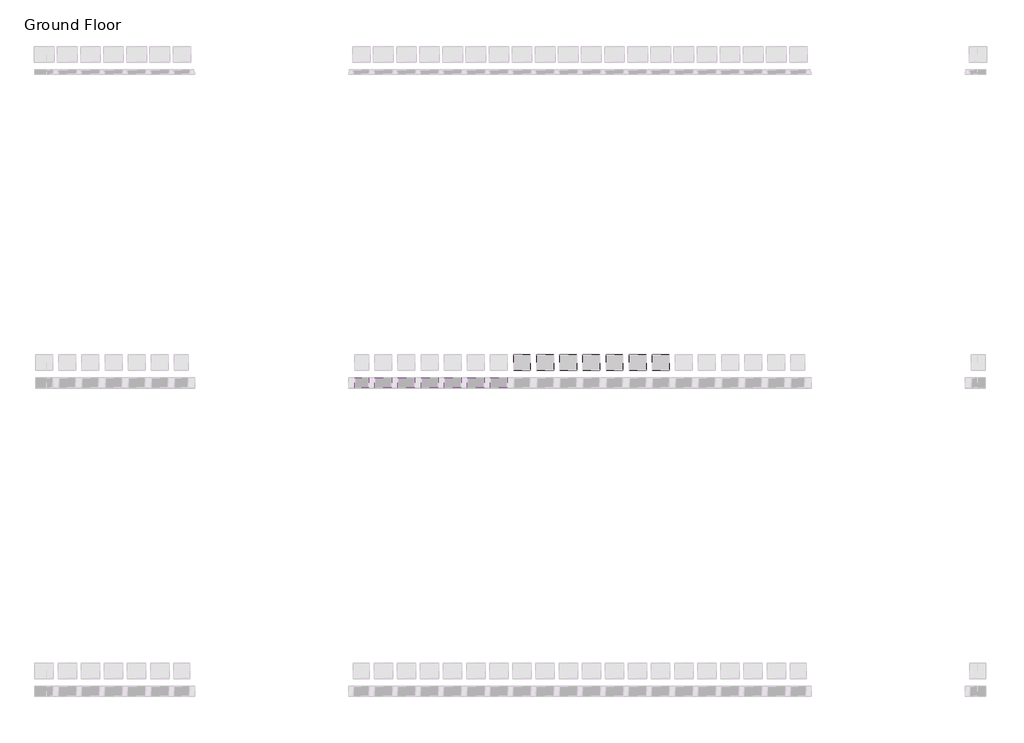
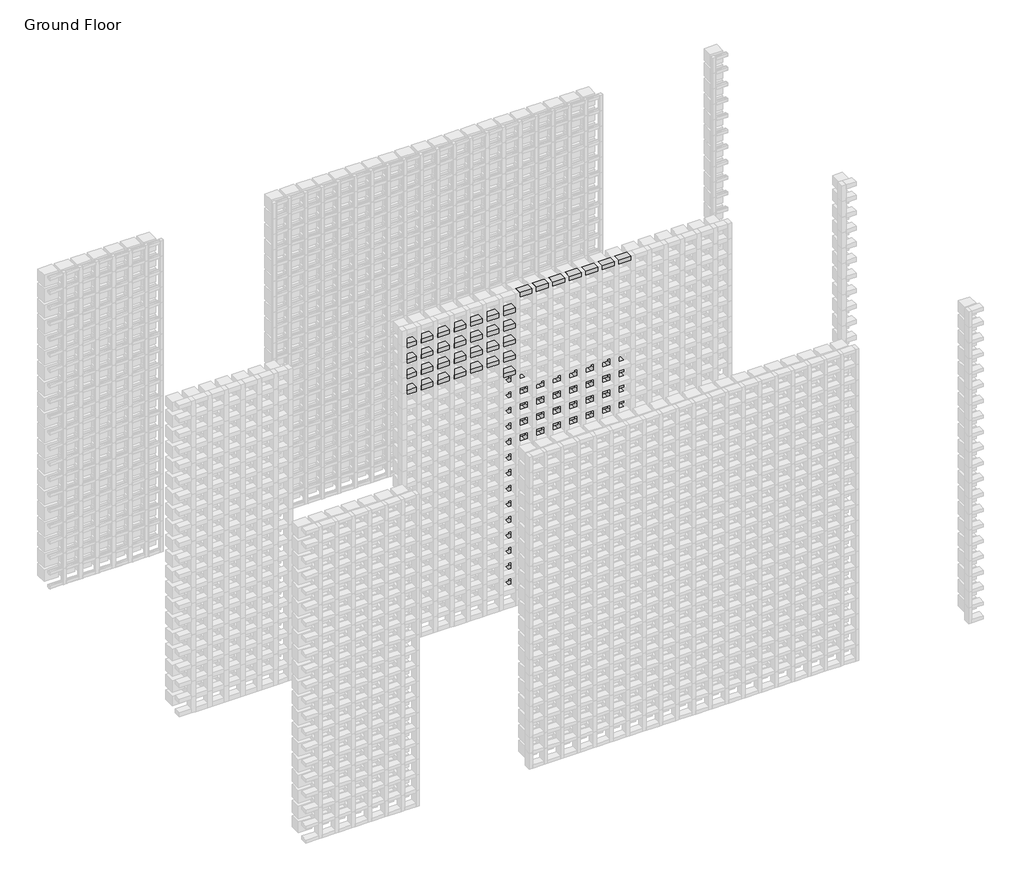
# One storey, part 97 of 350: 92 plates, 48 members.
"""IFC4 building model written with IfcOpenShell, lengths in millimetres."""

from ifc_helpers import new_model, si_unit, origin, place, context, project, spatial, transform, mapped, element, save
from components import rectangular_mullion_d93f5598, rectangular_mullion_655930e9, rectangular_mullion_581565bb, rectangular_mullion_d5b82d3d, rectangular_mullion_0b6a8654, empty_system_panel_empty_3b500fad, empty_system_panel_empty_1faefc6a

model = new_model("IFC4")

# Units and contexts
model_context = context("Model", 3, world=origin())
ifc_project = project(units=[si_unit("LENGTHUNIT", "METRE", prefix="MILLI")], contexts=[model_context])

# Site, building, storey
site = spatial("IfcSite", under=ifc_project)
building = spatial("IfcBuilding", under=site)
storey = spatial("IfcBuildingStorey", under=building, Name="Ground Floor", Elevation=0.0)

# Members
placement = place(None, origin())
rectangular_mullion_shape = rectangular_mullion_d93f5598(model_context)
element("IfcMember", 1, ObjectType="Rectangular Mullion : Batten_Timber_Modinex_Austratus_Grid_Fascia_40x65_Blackbutt", at=placement, inside=storey, context=model_context, shape_type="MappedRepresentation", body=[
    mapped(rectangular_mullion_shape, transform((6946.4361642, 40968.2978302, 2250.0), x_axis=(0.0, 0.0, 1.0), y_axis=(0.0, -1.0, 0.0), z_axis=(1.0, 0.0, 0.0))),
])
element("IfcMember", 2, ObjectType="Rectangular Mullion : Batten_Timber_Modinex_Austratus_Grid_Fascia_40x65_Blackbutt", at=placement, inside=storey, context=model_context, shape_type="MappedRepresentation", body=[
    mapped(rectangular_mullion_shape, transform((6196.4361642, 40968.2978302, 2400.0), x_axis=(0.0, 0.0, 1.0), y_axis=(0.0, -1.0, 0.0), z_axis=(1.0, 0.0, 0.0))),
])
element("IfcMember", 3, ObjectType="Rectangular Mullion : Batten_Timber_Modinex_Austratus_Grid_Fascia_40x65_Blackbutt", at=placement, inside=storey, context=model_context, shape_type="MappedRepresentation", body=[
    mapped(rectangular_mullion_shape, transform((6346.4361642, 40968.2978302, 2400.0), x_axis=(0.0, 0.0, 1.0), y_axis=(0.0, -1.0, 0.0), z_axis=(1.0, 0.0, 0.0))),
])
element("IfcMember", 4, ObjectType="Rectangular Mullion : Batten_Timber_Modinex_Austratus_Grid_Fascia_40x65_Blackbutt", at=placement, inside=storey, context=model_context, shape_type="MappedRepresentation", body=[
    mapped(rectangular_mullion_shape, transform((6496.4361642, 40968.2978302, 2400.0), x_axis=(0.0, 0.0, 1.0), y_axis=(0.0, -1.0, 0.0), z_axis=(1.0, 0.0, 0.0))),
])
element("IfcMember", 5, ObjectType="Rectangular Mullion : Batten_Timber_Modinex_Austratus_Grid_Fascia_40x65_Blackbutt", at=placement, inside=storey, context=model_context, shape_type="MappedRepresentation", body=[
    mapped(rectangular_mullion_shape, transform((6646.4361642, 40968.2978302, 2400.0), x_axis=(0.0, 0.0, 1.0), y_axis=(0.0, -1.0, 0.0), z_axis=(1.0, 0.0, 0.0))),
])
element("IfcMember", 6, ObjectType="Rectangular Mullion : Batten_Timber_Modinex_Austratus_Grid_Fascia_40x65_Blackbutt", at=placement, inside=storey, context=model_context, shape_type="MappedRepresentation", body=[
    mapped(rectangular_mullion_shape, transform((6796.4361642, 40968.2978302, 2400.0), x_axis=(0.0, 0.0, 1.0), y_axis=(0.0, -1.0, 0.0), z_axis=(1.0, 0.0, 0.0))),
])
element("IfcMember", 7, ObjectType="Rectangular Mullion : Batten_Timber_Modinex_Austratus_Grid_Fascia_40x65_Blackbutt", at=placement, inside=storey, context=model_context, shape_type="MappedRepresentation", body=[
    mapped(rectangular_mullion_shape, transform((6946.4361642, 40968.2978302, 2400.0), x_axis=(0.0, 0.0, 1.0), y_axis=(0.0, -1.0, 0.0), z_axis=(1.0, 0.0, 0.0))),
])
element("IfcMember", 8, ObjectType="Rectangular Mullion : Batten_Timber_Modinex_Austratus_Grid_Fascia_40x65_Blackbutt", at=placement, inside=storey, context=model_context, shape_type="MappedRepresentation", body=[
    mapped(rectangular_mullion_shape, transform((6196.4361642, 40968.2978302, 2550.0), x_axis=(0.0, 0.0, 1.0), y_axis=(0.0, -1.0, 0.0), z_axis=(1.0, 0.0, 0.0))),
])
element("IfcMember", 9, ObjectType="Rectangular Mullion : Batten_Timber_Modinex_Austratus_Grid_Fascia_40x65_Blackbutt", at=placement, inside=storey, context=model_context, shape_type="MappedRepresentation", body=[
    mapped(rectangular_mullion_shape, transform((6346.4361642, 40968.2978302, 2550.0), x_axis=(0.0, 0.0, 1.0), y_axis=(0.0, -1.0, 0.0), z_axis=(1.0, 0.0, 0.0))),
])
element("IfcMember", 10, ObjectType="Rectangular Mullion : Batten_Timber_Modinex_Austratus_Grid_Fascia_40x65_Blackbutt", at=placement, inside=storey, context=model_context, shape_type="MappedRepresentation", body=[
    mapped(rectangular_mullion_shape, transform((6496.4361642, 40968.2978302, 2550.0), x_axis=(0.0, 0.0, 1.0), y_axis=(0.0, -1.0, 0.0), z_axis=(1.0, 0.0, 0.0))),
])
element("IfcMember", 11, ObjectType="Rectangular Mullion : Batten_Timber_Modinex_Austratus_Grid_Fascia_40x65_Blackbutt", at=placement, inside=storey, context=model_context, shape_type="MappedRepresentation", body=[
    mapped(rectangular_mullion_shape, transform((6646.4361642, 40968.2978302, 2550.0), x_axis=(0.0, 0.0, 1.0), y_axis=(0.0, -1.0, 0.0), z_axis=(1.0, 0.0, 0.0))),
])
element("IfcMember", 12, ObjectType="Rectangular Mullion : Batten_Timber_Modinex_Austratus_Grid_Fascia_40x65_Blackbutt", at=placement, inside=storey, context=model_context, shape_type="MappedRepresentation", body=[
    mapped(rectangular_mullion_shape, transform((6796.4361642, 40968.2978302, 2550.0), x_axis=(0.0, 0.0, 1.0), y_axis=(0.0, -1.0, 0.0), z_axis=(1.0, 0.0, 0.0))),
])
element("IfcMember", 13, ObjectType="Rectangular Mullion : Batten_Timber_Modinex_Austratus_Grid_Fascia_40x65_Blackbutt", at=placement, inside=storey, context=model_context, shape_type="MappedRepresentation", body=[
    mapped(rectangular_mullion_shape, transform((6946.4361642, 40968.2978302, 2550.0), x_axis=(0.0, 0.0, 1.0), y_axis=(0.0, -1.0, 0.0), z_axis=(1.0, 0.0, 0.0))),
])
element("IfcMember", 14, ObjectType="Rectangular Mullion : Batten_Timber_Modinex_Austratus_Grid_Fascia_40x65_Blackbutt", at=placement, inside=storey, context=model_context, shape_type="MappedRepresentation", body=[
    mapped(rectangular_mullion_shape, transform((6196.4361642, 40968.2978302, 2700.0), x_axis=(0.0, 0.0, 1.0), y_axis=(0.0, -1.0, 0.0), z_axis=(1.0, 0.0, 0.0))),
])
element("IfcMember", 15, ObjectType="Rectangular Mullion : Batten_Timber_Modinex_Austratus_Grid_Fascia_40x65_Blackbutt", at=placement, inside=storey, context=model_context, shape_type="MappedRepresentation", body=[
    mapped(rectangular_mullion_shape, transform((6346.4361642, 40968.2978302, 2700.0), x_axis=(0.0, 0.0, 1.0), y_axis=(0.0, -1.0, 0.0), z_axis=(1.0, 0.0, 0.0))),
])
element("IfcMember", 16, ObjectType="Rectangular Mullion : Batten_Timber_Modinex_Austratus_Grid_Fascia_40x65_Blackbutt", at=placement, inside=storey, context=model_context, shape_type="MappedRepresentation", body=[
    mapped(rectangular_mullion_shape, transform((6496.4361642, 40968.2978302, 2700.0), x_axis=(0.0, 0.0, 1.0), y_axis=(0.0, -1.0, 0.0), z_axis=(1.0, 0.0, 0.0))),
])
element("IfcMember", 17, ObjectType="Rectangular Mullion : Batten_Timber_Modinex_Austratus_Grid_Fascia_40x65_Blackbutt", at=placement, inside=storey, context=model_context, shape_type="MappedRepresentation", body=[
    mapped(rectangular_mullion_shape, transform((6646.4361642, 40968.2978302, 2700.0), x_axis=(0.0, 0.0, 1.0), y_axis=(0.0, -1.0, 0.0), z_axis=(1.0, 0.0, 0.0))),
])
element("IfcMember", 18, ObjectType="Rectangular Mullion : Batten_Timber_Modinex_Austratus_Grid_Fascia_40x65_Blackbutt", at=placement, inside=storey, context=model_context, shape_type="MappedRepresentation", body=[
    mapped(rectangular_mullion_shape, transform((6796.4361642, 40968.2978302, 2700.0), x_axis=(0.0, 0.0, 1.0), y_axis=(0.0, -1.0, 0.0), z_axis=(1.0, 0.0, 0.0))),
])
element("IfcMember", 19, ObjectType="Rectangular Mullion : Batten_Timber_Modinex_Austratus_Grid_Fascia_40x65_Blackbutt", at=placement, inside=storey, context=model_context, shape_type="MappedRepresentation", body=[
    mapped(rectangular_mullion_shape, transform((6946.4361642, 40968.2978302, 2700.0), x_axis=(0.0, 0.0, 1.0), y_axis=(0.0, -1.0, 0.0), z_axis=(1.0, 0.0, 0.0))),
])
element("IfcMember", 20, ObjectType="Rectangular Mullion : Batten_Timber_Modinex_Austratus_Grid_Fascia_40x65_Blackbutt", at=placement, inside=storey, context=model_context, shape_type="MappedRepresentation", body=[
    mapped(rectangular_mullion_shape, transform((6196.4361642, 40968.2978302, 2850.0), x_axis=(0.0, 0.0, 1.0), y_axis=(0.0, -1.0, 0.0), z_axis=(1.0, 0.0, 0.0))),
])
element("IfcMember", 21, ObjectType="Rectangular Mullion : Batten_Timber_Modinex_Austratus_Grid_Fascia_40x65_Blackbutt", at=placement, inside=storey, context=model_context, shape_type="MappedRepresentation", body=[
    mapped(rectangular_mullion_shape, transform((6346.4361642, 40968.2978302, 2850.0), x_axis=(0.0, 0.0, 1.0), y_axis=(0.0, -1.0, 0.0), z_axis=(1.0, 0.0, 0.0))),
])
element("IfcMember", 22, ObjectType="Rectangular Mullion : Batten_Timber_Modinex_Austratus_Grid_Fascia_40x65_Blackbutt", at=placement, inside=storey, context=model_context, shape_type="MappedRepresentation", body=[
    mapped(rectangular_mullion_shape, transform((6496.4361642, 40968.2978302, 2850.0), x_axis=(0.0, 0.0, 1.0), y_axis=(0.0, -1.0, 0.0), z_axis=(1.0, 0.0, 0.0))),
])
element("IfcMember", 23, ObjectType="Rectangular Mullion : Batten_Timber_Modinex_Austratus_Grid_Fascia_40x65_Blackbutt", at=placement, inside=storey, context=model_context, shape_type="MappedRepresentation", body=[
    mapped(rectangular_mullion_shape, transform((6646.4361642, 40968.2978302, 2850.0), x_axis=(0.0, 0.0, 1.0), y_axis=(0.0, -1.0, 0.0), z_axis=(1.0, 0.0, 0.0))),
])
element("IfcMember", 24, ObjectType="Rectangular Mullion : Batten_Timber_Modinex_Austratus_Grid_Fascia_40x65_Blackbutt", at=placement, inside=storey, context=model_context, shape_type="MappedRepresentation", body=[
    mapped(rectangular_mullion_shape, transform((6796.4361642, 40968.2978302, 2850.0), x_axis=(0.0, 0.0, 1.0), y_axis=(0.0, -1.0, 0.0), z_axis=(1.0, 0.0, 0.0))),
])
element("IfcMember", 25, ObjectType="Rectangular Mullion : Batten_Timber_Modinex_Austratus_Grid_Fascia_40x65_Blackbutt", at=placement, inside=storey, context=model_context, shape_type="MappedRepresentation", body=[
    mapped(rectangular_mullion_shape, transform((6946.4361642, 40968.2978302, 2850.0), x_axis=(0.0, 0.0, 1.0), y_axis=(0.0, -1.0, 0.0), z_axis=(1.0, 0.0, 0.0))),
])
rectangular_mullion_2_shape = rectangular_mullion_655930e9(model_context)
element("IfcMember", 26, ObjectType="Rectangular Mullion : Batten_Timber_Modinex_Austratus_Grid_Fascia_40x65_Blackbutt", at=placement, inside=storey, context=model_context, shape_type="MappedRepresentation", body=[
    mapped(rectangular_mullion_2_shape, transform((7116.4361642, 40968.2978302, 0.0), x_axis=(1.0, 0.0, 0.0), y_axis=(0.0, -1.0, 0.0), z_axis=(0.0, 0.0, -1.0))),
])
element("IfcMember", 27, ObjectType="Rectangular Mullion : Batten_Timber_Modinex_Austratus_Grid_Fascia_40x65_Blackbutt", at=placement, inside=storey, context=model_context, shape_type="MappedRepresentation", body=[
    mapped(rectangular_mullion_2_shape, transform((7266.4361642, 40968.2978302, 0.0), x_axis=(1.0, 0.0, 0.0), y_axis=(0.0, -1.0, 0.0), z_axis=(0.0, 0.0, -1.0))),
])
element("IfcMember", 28, ObjectType="Rectangular Mullion : Batten_Timber_Modinex_Austratus_Grid_Fascia_40x65_Blackbutt", at=placement, inside=storey, context=model_context, shape_type="MappedRepresentation", body=[
    mapped(rectangular_mullion_2_shape, transform((7416.4361642, 40968.2978302, 0.0), x_axis=(1.0, 0.0, 0.0), y_axis=(0.0, -1.0, 0.0), z_axis=(0.0, 0.0, -1.0))),
])
element("IfcMember", 29, ObjectType="Rectangular Mullion : Batten_Timber_Modinex_Austratus_Grid_Fascia_40x65_Blackbutt", at=placement, inside=storey, context=model_context, shape_type="MappedRepresentation", body=[
    mapped(rectangular_mullion_2_shape, transform((7566.4361642, 40968.2978302, 0.0), x_axis=(1.0, 0.0, 0.0), y_axis=(0.0, -1.0, 0.0), z_axis=(0.0, 0.0, -1.0))),
])
element("IfcMember", 30, ObjectType="Rectangular Mullion : Batten_Timber_Modinex_Austratus_Grid_Fascia_40x65_Blackbutt", at=placement, inside=storey, context=model_context, shape_type="MappedRepresentation", body=[
    mapped(rectangular_mullion_2_shape, transform((7716.4361642, 40968.2978302, 0.0), x_axis=(1.0, 0.0, 0.0), y_axis=(0.0, -1.0, 0.0), z_axis=(0.0, 0.0, -1.0))),
])
element("IfcMember", 31, ObjectType="Rectangular Mullion : Batten_Timber_Modinex_Austratus_Grid_Fascia_40x65_Blackbutt", at=placement, inside=storey, context=model_context, shape_type="MappedRepresentation", body=[
    mapped(rectangular_mullion_2_shape, transform((7866.4361642, 40968.2978302, 0.0), x_axis=(1.0, 0.0, 0.0), y_axis=(0.0, -1.0, 0.0), z_axis=(0.0, 0.0, -1.0))),
])
rectangular_mullion_3_shape = rectangular_mullion_581565bb(model_context)
element("IfcMember", 32, ObjectType="Rectangular Mullion : Batten_Timber_Modinex_Austratus_Grid_Fascia_40x65_Blackbutt", at=placement, inside=storey, context=model_context, shape_type="MappedRepresentation", body=[
    mapped(rectangular_mullion_3_shape, transform((7096.4361642, 40968.2978302, 3000.0), x_axis=(0.0, 0.0, 1.0), y_axis=(0.0, -1.0, 0.0), z_axis=(1.0, 0.0, 0.0))),
])
element("IfcMember", 33, ObjectType="Rectangular Mullion : Batten_Timber_Modinex_Austratus_Grid_Fascia_40x65_Blackbutt", at=placement, inside=storey, context=model_context, shape_type="MappedRepresentation", body=[
    mapped(rectangular_mullion_3_shape, transform((7246.4361642, 40968.2978302, 3000.0), x_axis=(0.0, 0.0, 1.0), y_axis=(0.0, -1.0, 0.0), z_axis=(1.0, 0.0, 0.0))),
])
element("IfcMember", 34, ObjectType="Rectangular Mullion : Batten_Timber_Modinex_Austratus_Grid_Fascia_40x65_Blackbutt", at=placement, inside=storey, context=model_context, shape_type="MappedRepresentation", body=[
    mapped(rectangular_mullion_3_shape, transform((7396.4361642, 40968.2978302, 3000.0), x_axis=(0.0, 0.0, 1.0), y_axis=(0.0, -1.0, 0.0), z_axis=(1.0, 0.0, 0.0))),
])
element("IfcMember", 35, ObjectType="Rectangular Mullion : Batten_Timber_Modinex_Austratus_Grid_Fascia_40x65_Blackbutt", at=placement, inside=storey, context=model_context, shape_type="MappedRepresentation", body=[
    mapped(rectangular_mullion_3_shape, transform((7546.4361642, 40968.2978302, 3000.0), x_axis=(0.0, 0.0, 1.0), y_axis=(0.0, -1.0, 0.0), z_axis=(1.0, 0.0, 0.0))),
])
element("IfcMember", 36, ObjectType="Rectangular Mullion : Batten_Timber_Modinex_Austratus_Grid_Fascia_40x65_Blackbutt", at=placement, inside=storey, context=model_context, shape_type="MappedRepresentation", body=[
    mapped(rectangular_mullion_3_shape, transform((7696.4361642, 40968.2978302, 3000.0), x_axis=(0.0, 0.0, 1.0), y_axis=(0.0, -1.0, 0.0), z_axis=(1.0, 0.0, 0.0))),
])
element("IfcMember", 37, ObjectType="Rectangular Mullion : Batten_Timber_Modinex_Austratus_Grid_Fascia_40x65_Blackbutt", at=placement, inside=storey, context=model_context, shape_type="MappedRepresentation", body=[
    mapped(rectangular_mullion_3_shape, transform((7846.4361642, 40968.2978302, 3000.0), x_axis=(0.0, 0.0, 1.0), y_axis=(0.0, -1.0, 0.0), z_axis=(1.0, 0.0, 0.0))),
])
element("IfcMember", 38, ObjectType="Rectangular Mullion : Batten_Timber_Modinex_Austratus_Grid_Fascia_40x65_Blackbutt", at=placement, inside=storey, context=model_context, shape_type="MappedRepresentation", body=[
    mapped(rectangular_mullion_3_shape, transform((7996.4361642, 40968.2978302, 3000.0), x_axis=(0.0, 0.0, 1.0), y_axis=(0.0, -1.0, 0.0), z_axis=(1.0, 0.0, 0.0))),
])
rectangular_mullion_4_shape = rectangular_mullion_d5b82d3d(model_context)
element("IfcMember", 39, ObjectType="Rectangular Mullion : Batten_Timber_Modinex_Austratus_Grid_Fascia_40x65_Blackbutt", at=placement, inside=storey, context=model_context, shape_type="MappedRepresentation", body=[
    mapped(rectangular_mullion_4_shape, transform((7136.4361642, 40968.2978302, 0.0), x_axis=(0.0, 0.0, -1.0), y_axis=(0.0, -1.0, 0.0), z_axis=(-1.0, 0.0, 0.0))),
])
element("IfcMember", 40, ObjectType="Rectangular Mullion : Batten_Timber_Modinex_Austratus_Grid_Fascia_40x65_Blackbutt", at=placement, inside=storey, context=model_context, shape_type="MappedRepresentation", body=[
    mapped(rectangular_mullion_4_shape, transform((7286.4361642, 40968.2978302, 0.0), x_axis=(0.0, 0.0, -1.0), y_axis=(0.0, -1.0, 0.0), z_axis=(-1.0, 0.0, 0.0))),
])
element("IfcMember", 41, ObjectType="Rectangular Mullion : Batten_Timber_Modinex_Austratus_Grid_Fascia_40x65_Blackbutt", at=placement, inside=storey, context=model_context, shape_type="MappedRepresentation", body=[
    mapped(rectangular_mullion_4_shape, transform((7436.4361642, 40968.2978302, 0.0), x_axis=(0.0, 0.0, -1.0), y_axis=(0.0, -1.0, 0.0), z_axis=(-1.0, 0.0, 0.0))),
])
element("IfcMember", 42, ObjectType="Rectangular Mullion : Batten_Timber_Modinex_Austratus_Grid_Fascia_40x65_Blackbutt", at=placement, inside=storey, context=model_context, shape_type="MappedRepresentation", body=[
    mapped(rectangular_mullion_4_shape, transform((7586.4361642, 40968.2978302, 0.0), x_axis=(0.0, 0.0, -1.0), y_axis=(0.0, -1.0, 0.0), z_axis=(-1.0, 0.0, 0.0))),
])
element("IfcMember", 43, ObjectType="Rectangular Mullion : Batten_Timber_Modinex_Austratus_Grid_Fascia_40x65_Blackbutt", at=placement, inside=storey, context=model_context, shape_type="MappedRepresentation", body=[
    mapped(rectangular_mullion_4_shape, transform((7736.4361642, 40968.2978302, 0.0), x_axis=(0.0, 0.0, -1.0), y_axis=(0.0, -1.0, 0.0), z_axis=(-1.0, 0.0, 0.0))),
])
element("IfcMember", 44, ObjectType="Rectangular Mullion : Batten_Timber_Modinex_Austratus_Grid_Fascia_40x65_Blackbutt", at=placement, inside=storey, context=model_context, shape_type="MappedRepresentation", body=[
    mapped(rectangular_mullion_4_shape, transform((7886.4361642, 40968.2978302, 0.0), x_axis=(0.0, 0.0, -1.0), y_axis=(0.0, -1.0, 0.0), z_axis=(-1.0, 0.0, 0.0))),
])
rectangular_mullion_5_shape = rectangular_mullion_0b6a8654(model_context)
element("IfcMember", 45, ObjectType="Rectangular Mullion : Batten_Timber_Modinex_Austratus_Grid_Fascia_40x65_Blackbutt", at=placement, inside=storey, context=model_context, shape_type="MappedRepresentation", body=[
    mapped(rectangular_mullion_5_shape, transform((6046.4361642, 40968.2978302, 2400.0), x_axis=(0.0, 0.0, 1.0), y_axis=(0.0, -1.0, 0.0), z_axis=(1.0, 0.0, 0.0))),
])
element("IfcMember", 46, ObjectType="Rectangular Mullion : Batten_Timber_Modinex_Austratus_Grid_Fascia_40x65_Blackbutt", at=placement, inside=storey, context=model_context, shape_type="MappedRepresentation", body=[
    mapped(rectangular_mullion_5_shape, transform((6046.4361642, 40968.2978302, 2550.0), x_axis=(0.0, 0.0, 1.0), y_axis=(0.0, -1.0, 0.0), z_axis=(1.0, 0.0, 0.0))),
])
element("IfcMember", 47, ObjectType="Rectangular Mullion : Batten_Timber_Modinex_Austratus_Grid_Fascia_40x65_Blackbutt", at=placement, inside=storey, context=model_context, shape_type="MappedRepresentation", body=[
    mapped(rectangular_mullion_5_shape, transform((6046.4361642, 40968.2978302, 2700.0), x_axis=(0.0, 0.0, 1.0), y_axis=(0.0, -1.0, 0.0), z_axis=(1.0, 0.0, 0.0))),
])
element("IfcMember", 48, ObjectType="Rectangular Mullion : Batten_Timber_Modinex_Austratus_Grid_Fascia_40x65_Blackbutt", at=placement, inside=storey, context=model_context, shape_type="MappedRepresentation", body=[
    mapped(rectangular_mullion_5_shape, transform((6046.4361642, 40968.2978302, 2850.0), x_axis=(0.0, 0.0, 1.0), y_axis=(0.0, -1.0, 0.0), z_axis=(1.0, 0.0, 0.0))),
])

# Plates
empty_system_panel_empty_shape = empty_system_panel_empty_3b500fad(model_context)
element("IfcPlate", 49, ObjectType="Empty System Panel : Empty", at=placement, inside=storey, context=model_context, shape_type="MappedRepresentation", body=[
    mapped(empty_system_panel_empty_shape, transform((7041.4361642, 40968.2978302, 170.0), x_axis=(1.0, 0.0, 0.0), y_axis=(0.0, 1.0, 0.0), z_axis=(0.0, 0.0, 1.0))),
])
element("IfcPlate", 50, ObjectType="Empty System Panel : Empty", at=placement, inside=storey, context=model_context, shape_type="MappedRepresentation", body=[
    mapped(empty_system_panel_empty_shape, transform((7191.4361642, 40968.2978302, 170.0), x_axis=(1.0, 0.0, 0.0), y_axis=(0.0, 1.0, 0.0), z_axis=(0.0, 0.0, 1.0))),
])
element("IfcPlate", 51, ObjectType="Empty System Panel : Empty", at=placement, inside=storey, context=model_context, shape_type="MappedRepresentation", body=[
    mapped(empty_system_panel_empty_shape, transform((7341.4361642, 40968.2978302, 170.0), x_axis=(1.0, 0.0, 0.0), y_axis=(0.0, 1.0, 0.0), z_axis=(0.0, 0.0, 1.0))),
])
element("IfcPlate", 52, ObjectType="Empty System Panel : Empty", at=placement, inside=storey, context=model_context, shape_type="MappedRepresentation", body=[
    mapped(empty_system_panel_empty_shape, transform((7491.4361642, 40968.2978302, 170.0), x_axis=(1.0, 0.0, 0.0), y_axis=(0.0, 1.0, 0.0), z_axis=(0.0, 0.0, 1.0))),
])
element("IfcPlate", 53, ObjectType="Empty System Panel : Empty", at=placement, inside=storey, context=model_context, shape_type="MappedRepresentation", body=[
    mapped(empty_system_panel_empty_shape, transform((7641.4361642, 40968.2978302, 170.0), x_axis=(1.0, 0.0, 0.0), y_axis=(0.0, 1.0, 0.0), z_axis=(0.0, 0.0, 1.0))),
])
element("IfcPlate", 54, ObjectType="Empty System Panel : Empty", at=placement, inside=storey, context=model_context, shape_type="MappedRepresentation", body=[
    mapped(empty_system_panel_empty_shape, transform((7791.4361642, 40968.2978302, 170.0), x_axis=(1.0, 0.0, 0.0), y_axis=(0.0, 1.0, 0.0), z_axis=(0.0, 0.0, 1.0))),
])
element("IfcPlate", 55, ObjectType="Empty System Panel : Empty", at=placement, inside=storey, context=model_context, shape_type="MappedRepresentation", body=[
    mapped(empty_system_panel_empty_shape, transform((7941.4361642, 40968.2978302, 170.0), x_axis=(1.0, 0.0, 0.0), y_axis=(0.0, 1.0, 0.0), z_axis=(0.0, 0.0, 1.0))),
])
element("IfcPlate", 56, ObjectType="Empty System Panel : Empty", at=placement, inside=storey, context=model_context, shape_type="MappedRepresentation", body=[
    mapped(empty_system_panel_empty_shape, transform((7041.4361642, 40968.2978302, 320.0), x_axis=(1.0, 0.0, 0.0), y_axis=(0.0, 1.0, 0.0), z_axis=(0.0, 0.0, 1.0))),
])
element("IfcPlate", 57, ObjectType="Empty System Panel : Empty", at=placement, inside=storey, context=model_context, shape_type="MappedRepresentation", body=[
    mapped(empty_system_panel_empty_shape, transform((7191.4361642, 40968.2978302, 320.0), x_axis=(1.0, 0.0, 0.0), y_axis=(0.0, 1.0, 0.0), z_axis=(0.0, 0.0, 1.0))),
])
element("IfcPlate", 58, ObjectType="Empty System Panel : Empty", at=placement, inside=storey, context=model_context, shape_type="MappedRepresentation", body=[
    mapped(empty_system_panel_empty_shape, transform((7341.4361642, 40968.2978302, 320.0), x_axis=(1.0, 0.0, 0.0), y_axis=(0.0, 1.0, 0.0), z_axis=(0.0, 0.0, 1.0))),
])
element("IfcPlate", 59, ObjectType="Empty System Panel : Empty", at=placement, inside=storey, context=model_context, shape_type="MappedRepresentation", body=[
    mapped(empty_system_panel_empty_shape, transform((7491.4361642, 40968.2978302, 320.0), x_axis=(1.0, 0.0, 0.0), y_axis=(0.0, 1.0, 0.0), z_axis=(0.0, 0.0, 1.0))),
])
element("IfcPlate", 60, ObjectType="Empty System Panel : Empty", at=placement, inside=storey, context=model_context, shape_type="MappedRepresentation", body=[
    mapped(empty_system_panel_empty_shape, transform((7641.4361642, 40968.2978302, 320.0), x_axis=(1.0, 0.0, 0.0), y_axis=(0.0, 1.0, 0.0), z_axis=(0.0, 0.0, 1.0))),
])
element("IfcPlate", 61, ObjectType="Empty System Panel : Empty", at=placement, inside=storey, context=model_context, shape_type="MappedRepresentation", body=[
    mapped(empty_system_panel_empty_shape, transform((7791.4361642, 40968.2978302, 320.0), x_axis=(1.0, 0.0, 0.0), y_axis=(0.0, 1.0, 0.0), z_axis=(0.0, 0.0, 1.0))),
])
element("IfcPlate", 62, ObjectType="Empty System Panel : Empty", at=placement, inside=storey, context=model_context, shape_type="MappedRepresentation", body=[
    mapped(empty_system_panel_empty_shape, transform((7941.4361642, 40968.2978302, 320.0), x_axis=(1.0, 0.0, 0.0), y_axis=(0.0, 1.0, 0.0), z_axis=(0.0, 0.0, 1.0))),
])
element("IfcPlate", 63, ObjectType="Empty System Panel : Empty", at=placement, inside=storey, context=model_context, shape_type="MappedRepresentation", body=[
    mapped(empty_system_panel_empty_shape, transform((7041.4361642, 40968.2978302, 470.0), x_axis=(1.0, 0.0, 0.0), y_axis=(0.0, 1.0, 0.0), z_axis=(0.0, 0.0, 1.0))),
])
element("IfcPlate", 64, ObjectType="Empty System Panel : Empty", at=placement, inside=storey, context=model_context, shape_type="MappedRepresentation", body=[
    mapped(empty_system_panel_empty_shape, transform((7191.4361642, 40968.2978302, 470.0), x_axis=(1.0, 0.0, 0.0), y_axis=(0.0, 1.0, 0.0), z_axis=(0.0, 0.0, 1.0))),
])
element("IfcPlate", 65, ObjectType="Empty System Panel : Empty", at=placement, inside=storey, context=model_context, shape_type="MappedRepresentation", body=[
    mapped(empty_system_panel_empty_shape, transform((7341.4361642, 40968.2978302, 470.0), x_axis=(1.0, 0.0, 0.0), y_axis=(0.0, 1.0, 0.0), z_axis=(0.0, 0.0, 1.0))),
])
element("IfcPlate", 66, ObjectType="Empty System Panel : Empty", at=placement, inside=storey, context=model_context, shape_type="MappedRepresentation", body=[
    mapped(empty_system_panel_empty_shape, transform((7491.4361642, 40968.2978302, 470.0), x_axis=(1.0, 0.0, 0.0), y_axis=(0.0, 1.0, 0.0), z_axis=(0.0, 0.0, 1.0))),
])
element("IfcPlate", 67, ObjectType="Empty System Panel : Empty", at=placement, inside=storey, context=model_context, shape_type="MappedRepresentation", body=[
    mapped(empty_system_panel_empty_shape, transform((7641.4361642, 40968.2978302, 470.0), x_axis=(1.0, 0.0, 0.0), y_axis=(0.0, 1.0, 0.0), z_axis=(0.0, 0.0, 1.0))),
])
element("IfcPlate", 68, ObjectType="Empty System Panel : Empty", at=placement, inside=storey, context=model_context, shape_type="MappedRepresentation", body=[
    mapped(empty_system_panel_empty_shape, transform((7791.4361642, 40968.2978302, 470.0), x_axis=(1.0, 0.0, 0.0), y_axis=(0.0, 1.0, 0.0), z_axis=(0.0, 0.0, 1.0))),
])
element("IfcPlate", 69, ObjectType="Empty System Panel : Empty", at=placement, inside=storey, context=model_context, shape_type="MappedRepresentation", body=[
    mapped(empty_system_panel_empty_shape, transform((7941.4361642, 40968.2978302, 470.0), x_axis=(1.0, 0.0, 0.0), y_axis=(0.0, 1.0, 0.0), z_axis=(0.0, 0.0, 1.0))),
])
element("IfcPlate", 70, ObjectType="Empty System Panel : Empty", at=placement, inside=storey, context=model_context, shape_type="MappedRepresentation", body=[
    mapped(empty_system_panel_empty_shape, transform((7041.4361642, 40968.2978302, 620.0), x_axis=(1.0, 0.0, 0.0), y_axis=(0.0, 1.0, 0.0), z_axis=(0.0, 0.0, 1.0))),
])
element("IfcPlate", 71, ObjectType="Empty System Panel : Empty", at=placement, inside=storey, context=model_context, shape_type="MappedRepresentation", body=[
    mapped(empty_system_panel_empty_shape, transform((7191.4361642, 40968.2978302, 620.0), x_axis=(1.0, 0.0, 0.0), y_axis=(0.0, 1.0, 0.0), z_axis=(0.0, 0.0, 1.0))),
])
element("IfcPlate", 72, ObjectType="Empty System Panel : Empty", at=placement, inside=storey, context=model_context, shape_type="MappedRepresentation", body=[
    mapped(empty_system_panel_empty_shape, transform((7341.4361642, 40968.2978302, 620.0), x_axis=(1.0, 0.0, 0.0), y_axis=(0.0, 1.0, 0.0), z_axis=(0.0, 0.0, 1.0))),
])
element("IfcPlate", 73, ObjectType="Empty System Panel : Empty", at=placement, inside=storey, context=model_context, shape_type="MappedRepresentation", body=[
    mapped(empty_system_panel_empty_shape, transform((7491.4361642, 40968.2978302, 620.0), x_axis=(1.0, 0.0, 0.0), y_axis=(0.0, 1.0, 0.0), z_axis=(0.0, 0.0, 1.0))),
])
element("IfcPlate", 74, ObjectType="Empty System Panel : Empty", at=placement, inside=storey, context=model_context, shape_type="MappedRepresentation", body=[
    mapped(empty_system_panel_empty_shape, transform((7641.4361642, 40968.2978302, 620.0), x_axis=(1.0, 0.0, 0.0), y_axis=(0.0, 1.0, 0.0), z_axis=(0.0, 0.0, 1.0))),
])
element("IfcPlate", 75, ObjectType="Empty System Panel : Empty", at=placement, inside=storey, context=model_context, shape_type="MappedRepresentation", body=[
    mapped(empty_system_panel_empty_shape, transform((7791.4361642, 40968.2978302, 620.0), x_axis=(1.0, 0.0, 0.0), y_axis=(0.0, 1.0, 0.0), z_axis=(0.0, 0.0, 1.0))),
])
element("IfcPlate", 76, ObjectType="Empty System Panel : Empty", at=placement, inside=storey, context=model_context, shape_type="MappedRepresentation", body=[
    mapped(empty_system_panel_empty_shape, transform((7941.4361642, 40968.2978302, 620.0), x_axis=(1.0, 0.0, 0.0), y_axis=(0.0, 1.0, 0.0), z_axis=(0.0, 0.0, 1.0))),
])
element("IfcPlate", 77, ObjectType="Empty System Panel : Empty", at=placement, inside=storey, context=model_context, shape_type="MappedRepresentation", body=[
    mapped(empty_system_panel_empty_shape, transform((7041.4361642, 40968.2978302, 770.0), x_axis=(1.0, 0.0, 0.0), y_axis=(0.0, 1.0, 0.0), z_axis=(0.0, 0.0, 1.0))),
])
element("IfcPlate", 78, ObjectType="Empty System Panel : Empty", at=placement, inside=storey, context=model_context, shape_type="MappedRepresentation", body=[
    mapped(empty_system_panel_empty_shape, transform((7191.4361642, 40968.2978302, 770.0), x_axis=(1.0, 0.0, 0.0), y_axis=(0.0, 1.0, 0.0), z_axis=(0.0, 0.0, 1.0))),
])
element("IfcPlate", 79, ObjectType="Empty System Panel : Empty", at=placement, inside=storey, context=model_context, shape_type="MappedRepresentation", body=[
    mapped(empty_system_panel_empty_shape, transform((7341.4361642, 40968.2978302, 770.0), x_axis=(1.0, 0.0, 0.0), y_axis=(0.0, 1.0, 0.0), z_axis=(0.0, 0.0, 1.0))),
])
element("IfcPlate", 80, ObjectType="Empty System Panel : Empty", at=placement, inside=storey, context=model_context, shape_type="MappedRepresentation", body=[
    mapped(empty_system_panel_empty_shape, transform((7491.4361642, 40968.2978302, 770.0), x_axis=(1.0, 0.0, 0.0), y_axis=(0.0, 1.0, 0.0), z_axis=(0.0, 0.0, 1.0))),
])
element("IfcPlate", 81, ObjectType="Empty System Panel : Empty", at=placement, inside=storey, context=model_context, shape_type="MappedRepresentation", body=[
    mapped(empty_system_panel_empty_shape, transform((7641.4361642, 40968.2978302, 770.0), x_axis=(1.0, 0.0, 0.0), y_axis=(0.0, 1.0, 0.0), z_axis=(0.0, 0.0, 1.0))),
])
element("IfcPlate", 82, ObjectType="Empty System Panel : Empty", at=placement, inside=storey, context=model_context, shape_type="MappedRepresentation", body=[
    mapped(empty_system_panel_empty_shape, transform((7791.4361642, 40968.2978302, 770.0), x_axis=(1.0, 0.0, 0.0), y_axis=(0.0, 1.0, 0.0), z_axis=(0.0, 0.0, 1.0))),
])
element("IfcPlate", 83, ObjectType="Empty System Panel : Empty", at=placement, inside=storey, context=model_context, shape_type="MappedRepresentation", body=[
    mapped(empty_system_panel_empty_shape, transform((7941.4361642, 40968.2978302, 770.0), x_axis=(1.0, 0.0, 0.0), y_axis=(0.0, 1.0, 0.0), z_axis=(0.0, 0.0, 1.0))),
])
element("IfcPlate", 84, ObjectType="Empty System Panel : Empty", at=placement, inside=storey, context=model_context, shape_type="MappedRepresentation", body=[
    mapped(empty_system_panel_empty_shape, transform((7041.4361642, 40968.2978302, 920.0), x_axis=(1.0, 0.0, 0.0), y_axis=(0.0, 1.0, 0.0), z_axis=(0.0, 0.0, 1.0))),
])
element("IfcPlate", 85, ObjectType="Empty System Panel : Empty", at=placement, inside=storey, context=model_context, shape_type="MappedRepresentation", body=[
    mapped(empty_system_panel_empty_shape, transform((7191.4361642, 40968.2978302, 920.0), x_axis=(1.0, 0.0, 0.0), y_axis=(0.0, 1.0, 0.0), z_axis=(0.0, 0.0, 1.0))),
])
element("IfcPlate", 86, ObjectType="Empty System Panel : Empty", at=placement, inside=storey, context=model_context, shape_type="MappedRepresentation", body=[
    mapped(empty_system_panel_empty_shape, transform((7341.4361642, 40968.2978302, 920.0), x_axis=(1.0, 0.0, 0.0), y_axis=(0.0, 1.0, 0.0), z_axis=(0.0, 0.0, 1.0))),
])
element("IfcPlate", 87, ObjectType="Empty System Panel : Empty", at=placement, inside=storey, context=model_context, shape_type="MappedRepresentation", body=[
    mapped(empty_system_panel_empty_shape, transform((7491.4361642, 40968.2978302, 920.0), x_axis=(1.0, 0.0, 0.0), y_axis=(0.0, 1.0, 0.0), z_axis=(0.0, 0.0, 1.0))),
])
element("IfcPlate", 88, ObjectType="Empty System Panel : Empty", at=placement, inside=storey, context=model_context, shape_type="MappedRepresentation", body=[
    mapped(empty_system_panel_empty_shape, transform((7641.4361642, 40968.2978302, 920.0), x_axis=(1.0, 0.0, 0.0), y_axis=(0.0, 1.0, 0.0), z_axis=(0.0, 0.0, 1.0))),
])
element("IfcPlate", 89, ObjectType="Empty System Panel : Empty", at=placement, inside=storey, context=model_context, shape_type="MappedRepresentation", body=[
    mapped(empty_system_panel_empty_shape, transform((7791.4361642, 40968.2978302, 920.0), x_axis=(1.0, 0.0, 0.0), y_axis=(0.0, 1.0, 0.0), z_axis=(0.0, 0.0, 1.0))),
])
element("IfcPlate", 90, ObjectType="Empty System Panel : Empty", at=placement, inside=storey, context=model_context, shape_type="MappedRepresentation", body=[
    mapped(empty_system_panel_empty_shape, transform((7941.4361642, 40968.2978302, 920.0), x_axis=(1.0, 0.0, 0.0), y_axis=(0.0, 1.0, 0.0), z_axis=(0.0, 0.0, 1.0))),
])
element("IfcPlate", 91, ObjectType="Empty System Panel : Empty", at=placement, inside=storey, context=model_context, shape_type="MappedRepresentation", body=[
    mapped(empty_system_panel_empty_shape, transform((7041.4361642, 40968.2978302, 1070.0), x_axis=(1.0, 0.0, 0.0), y_axis=(0.0, 1.0, 0.0), z_axis=(0.0, 0.0, 1.0))),
])
element("IfcPlate", 92, ObjectType="Empty System Panel : Empty", at=placement, inside=storey, context=model_context, shape_type="MappedRepresentation", body=[
    mapped(empty_system_panel_empty_shape, transform((7191.4361642, 40968.2978302, 1070.0), x_axis=(1.0, 0.0, 0.0), y_axis=(0.0, 1.0, 0.0), z_axis=(0.0, 0.0, 1.0))),
])
element("IfcPlate", 93, ObjectType="Empty System Panel : Empty", at=placement, inside=storey, context=model_context, shape_type="MappedRepresentation", body=[
    mapped(empty_system_panel_empty_shape, transform((7341.4361642, 40968.2978302, 1070.0), x_axis=(1.0, 0.0, 0.0), y_axis=(0.0, 1.0, 0.0), z_axis=(0.0, 0.0, 1.0))),
])
element("IfcPlate", 94, ObjectType="Empty System Panel : Empty", at=placement, inside=storey, context=model_context, shape_type="MappedRepresentation", body=[
    mapped(empty_system_panel_empty_shape, transform((7491.4361642, 40968.2978302, 1070.0), x_axis=(1.0, 0.0, 0.0), y_axis=(0.0, 1.0, 0.0), z_axis=(0.0, 0.0, 1.0))),
])
element("IfcPlate", 95, ObjectType="Empty System Panel : Empty", at=placement, inside=storey, context=model_context, shape_type="MappedRepresentation", body=[
    mapped(empty_system_panel_empty_shape, transform((7641.4361642, 40968.2978302, 1070.0), x_axis=(1.0, 0.0, 0.0), y_axis=(0.0, 1.0, 0.0), z_axis=(0.0, 0.0, 1.0))),
])
element("IfcPlate", 96, ObjectType="Empty System Panel : Empty", at=placement, inside=storey, context=model_context, shape_type="MappedRepresentation", body=[
    mapped(empty_system_panel_empty_shape, transform((7791.4361642, 40968.2978302, 1070.0), x_axis=(1.0, 0.0, 0.0), y_axis=(0.0, 1.0, 0.0), z_axis=(0.0, 0.0, 1.0))),
])
element("IfcPlate", 97, ObjectType="Empty System Panel : Empty", at=placement, inside=storey, context=model_context, shape_type="MappedRepresentation", body=[
    mapped(empty_system_panel_empty_shape, transform((7941.4361642, 40968.2978302, 1070.0), x_axis=(1.0, 0.0, 0.0), y_axis=(0.0, 1.0, 0.0), z_axis=(0.0, 0.0, 1.0))),
])
element("IfcPlate", 98, ObjectType="Empty System Panel : Empty", at=placement, inside=storey, context=model_context, shape_type="MappedRepresentation", body=[
    mapped(empty_system_panel_empty_shape, transform((7041.4361642, 40968.2978302, 1220.0), x_axis=(1.0, 0.0, 0.0), y_axis=(0.0, 1.0, 0.0), z_axis=(0.0, 0.0, 1.0))),
])
element("IfcPlate", 99, ObjectType="Empty System Panel : Empty", at=placement, inside=storey, context=model_context, shape_type="MappedRepresentation", body=[
    mapped(empty_system_panel_empty_shape, transform((7191.4361642, 40968.2978302, 1220.0), x_axis=(1.0, 0.0, 0.0), y_axis=(0.0, 1.0, 0.0), z_axis=(0.0, 0.0, 1.0))),
])
element("IfcPlate", 100, ObjectType="Empty System Panel : Empty", at=placement, inside=storey, context=model_context, shape_type="MappedRepresentation", body=[
    mapped(empty_system_panel_empty_shape, transform((7341.4361642, 40968.2978302, 1220.0), x_axis=(1.0, 0.0, 0.0), y_axis=(0.0, 1.0, 0.0), z_axis=(0.0, 0.0, 1.0))),
])
element("IfcPlate", 101, ObjectType="Empty System Panel : Empty", at=placement, inside=storey, context=model_context, shape_type="MappedRepresentation", body=[
    mapped(empty_system_panel_empty_shape, transform((7491.4361642, 40968.2978302, 1220.0), x_axis=(1.0, 0.0, 0.0), y_axis=(0.0, 1.0, 0.0), z_axis=(0.0, 0.0, 1.0))),
])
element("IfcPlate", 102, ObjectType="Empty System Panel : Empty", at=placement, inside=storey, context=model_context, shape_type="MappedRepresentation", body=[
    mapped(empty_system_panel_empty_shape, transform((7641.4361642, 40968.2978302, 1220.0), x_axis=(1.0, 0.0, 0.0), y_axis=(0.0, 1.0, 0.0), z_axis=(0.0, 0.0, 1.0))),
])
element("IfcPlate", 103, ObjectType="Empty System Panel : Empty", at=placement, inside=storey, context=model_context, shape_type="MappedRepresentation", body=[
    mapped(empty_system_panel_empty_shape, transform((7791.4361642, 40968.2978302, 1220.0), x_axis=(1.0, 0.0, 0.0), y_axis=(0.0, 1.0, 0.0), z_axis=(0.0, 0.0, 1.0))),
])
element("IfcPlate", 104, ObjectType="Empty System Panel : Empty", at=placement, inside=storey, context=model_context, shape_type="MappedRepresentation", body=[
    mapped(empty_system_panel_empty_shape, transform((7941.4361642, 40968.2978302, 1220.0), x_axis=(1.0, 0.0, 0.0), y_axis=(0.0, 1.0, 0.0), z_axis=(0.0, 0.0, 1.0))),
])
element("IfcPlate", 105, ObjectType="Empty System Panel : Empty", at=placement, inside=storey, context=model_context, shape_type="MappedRepresentation", body=[
    mapped(empty_system_panel_empty_shape, transform((7041.4361642, 40968.2978302, 1370.0), x_axis=(1.0, 0.0, 0.0), y_axis=(0.0, 1.0, 0.0), z_axis=(0.0, 0.0, 1.0))),
])
element("IfcPlate", 106, ObjectType="Empty System Panel : Empty", at=placement, inside=storey, context=model_context, shape_type="MappedRepresentation", body=[
    mapped(empty_system_panel_empty_shape, transform((7191.4361642, 40968.2978302, 1370.0), x_axis=(1.0, 0.0, 0.0), y_axis=(0.0, 1.0, 0.0), z_axis=(0.0, 0.0, 1.0))),
])
element("IfcPlate", 107, ObjectType="Empty System Panel : Empty", at=placement, inside=storey, context=model_context, shape_type="MappedRepresentation", body=[
    mapped(empty_system_panel_empty_shape, transform((7341.4361642, 40968.2978302, 1370.0), x_axis=(1.0, 0.0, 0.0), y_axis=(0.0, 1.0, 0.0), z_axis=(0.0, 0.0, 1.0))),
])
element("IfcPlate", 108, ObjectType="Empty System Panel : Empty", at=placement, inside=storey, context=model_context, shape_type="MappedRepresentation", body=[
    mapped(empty_system_panel_empty_shape, transform((7491.4361642, 40968.2978302, 1370.0), x_axis=(1.0, 0.0, 0.0), y_axis=(0.0, 1.0, 0.0), z_axis=(0.0, 0.0, 1.0))),
])
element("IfcPlate", 109, ObjectType="Empty System Panel : Empty", at=placement, inside=storey, context=model_context, shape_type="MappedRepresentation", body=[
    mapped(empty_system_panel_empty_shape, transform((7641.4361642, 40968.2978302, 1370.0), x_axis=(1.0, 0.0, 0.0), y_axis=(0.0, 1.0, 0.0), z_axis=(0.0, 0.0, 1.0))),
])
element("IfcPlate", 110, ObjectType="Empty System Panel : Empty", at=placement, inside=storey, context=model_context, shape_type="MappedRepresentation", body=[
    mapped(empty_system_panel_empty_shape, transform((7791.4361642, 40968.2978302, 1370.0), x_axis=(1.0, 0.0, 0.0), y_axis=(0.0, 1.0, 0.0), z_axis=(0.0, 0.0, 1.0))),
])
element("IfcPlate", 111, ObjectType="Empty System Panel : Empty", at=placement, inside=storey, context=model_context, shape_type="MappedRepresentation", body=[
    mapped(empty_system_panel_empty_shape, transform((7941.4361642, 40968.2978302, 1370.0), x_axis=(1.0, 0.0, 0.0), y_axis=(0.0, 1.0, 0.0), z_axis=(0.0, 0.0, 1.0))),
])
element("IfcPlate", 112, ObjectType="Empty System Panel : Empty", at=placement, inside=storey, context=model_context, shape_type="MappedRepresentation", body=[
    mapped(empty_system_panel_empty_shape, transform((7041.4361642, 40968.2978302, 1520.0), x_axis=(1.0, 0.0, 0.0), y_axis=(0.0, 1.0, 0.0), z_axis=(0.0, 0.0, 1.0))),
])
element("IfcPlate", 113, ObjectType="Empty System Panel : Empty", at=placement, inside=storey, context=model_context, shape_type="MappedRepresentation", body=[
    mapped(empty_system_panel_empty_shape, transform((7191.4361642, 40968.2978302, 1520.0), x_axis=(1.0, 0.0, 0.0), y_axis=(0.0, 1.0, 0.0), z_axis=(0.0, 0.0, 1.0))),
])
element("IfcPlate", 114, ObjectType="Empty System Panel : Empty", at=placement, inside=storey, context=model_context, shape_type="MappedRepresentation", body=[
    mapped(empty_system_panel_empty_shape, transform((7341.4361642, 40968.2978302, 1520.0), x_axis=(1.0, 0.0, 0.0), y_axis=(0.0, 1.0, 0.0), z_axis=(0.0, 0.0, 1.0))),
])
element("IfcPlate", 115, ObjectType="Empty System Panel : Empty", at=placement, inside=storey, context=model_context, shape_type="MappedRepresentation", body=[
    mapped(empty_system_panel_empty_shape, transform((7491.4361642, 40968.2978302, 1520.0), x_axis=(1.0, 0.0, 0.0), y_axis=(0.0, 1.0, 0.0), z_axis=(0.0, 0.0, 1.0))),
])
element("IfcPlate", 116, ObjectType="Empty System Panel : Empty", at=placement, inside=storey, context=model_context, shape_type="MappedRepresentation", body=[
    mapped(empty_system_panel_empty_shape, transform((7641.4361642, 40968.2978302, 1520.0), x_axis=(1.0, 0.0, 0.0), y_axis=(0.0, 1.0, 0.0), z_axis=(0.0, 0.0, 1.0))),
])
element("IfcPlate", 117, ObjectType="Empty System Panel : Empty", at=placement, inside=storey, context=model_context, shape_type="MappedRepresentation", body=[
    mapped(empty_system_panel_empty_shape, transform((7791.4361642, 40968.2978302, 1520.0), x_axis=(1.0, 0.0, 0.0), y_axis=(0.0, 1.0, 0.0), z_axis=(0.0, 0.0, 1.0))),
])
element("IfcPlate", 118, ObjectType="Empty System Panel : Empty", at=placement, inside=storey, context=model_context, shape_type="MappedRepresentation", body=[
    mapped(empty_system_panel_empty_shape, transform((7941.4361642, 40968.2978302, 1520.0), x_axis=(1.0, 0.0, 0.0), y_axis=(0.0, 1.0, 0.0), z_axis=(0.0, 0.0, 1.0))),
])
element("IfcPlate", 119, ObjectType="Empty System Panel : Empty", at=placement, inside=storey, context=model_context, shape_type="MappedRepresentation", body=[
    mapped(empty_system_panel_empty_shape, transform((7041.4361642, 40968.2978302, 1670.0), x_axis=(1.0, 0.0, 0.0), y_axis=(0.0, 1.0, 0.0), z_axis=(0.0, 0.0, 1.0))),
])
element("IfcPlate", 120, ObjectType="Empty System Panel : Empty", at=placement, inside=storey, context=model_context, shape_type="MappedRepresentation", body=[
    mapped(empty_system_panel_empty_shape, transform((7191.4361642, 40968.2978302, 1670.0), x_axis=(1.0, 0.0, 0.0), y_axis=(0.0, 1.0, 0.0), z_axis=(0.0, 0.0, 1.0))),
])
element("IfcPlate", 121, ObjectType="Empty System Panel : Empty", at=placement, inside=storey, context=model_context, shape_type="MappedRepresentation", body=[
    mapped(empty_system_panel_empty_shape, transform((7341.4361642, 40968.2978302, 1670.0), x_axis=(1.0, 0.0, 0.0), y_axis=(0.0, 1.0, 0.0), z_axis=(0.0, 0.0, 1.0))),
])
element("IfcPlate", 122, ObjectType="Empty System Panel : Empty", at=placement, inside=storey, context=model_context, shape_type="MappedRepresentation", body=[
    mapped(empty_system_panel_empty_shape, transform((7491.4361642, 40968.2978302, 1670.0), x_axis=(1.0, 0.0, 0.0), y_axis=(0.0, 1.0, 0.0), z_axis=(0.0, 0.0, 1.0))),
])
element("IfcPlate", 123, ObjectType="Empty System Panel : Empty", at=placement, inside=storey, context=model_context, shape_type="MappedRepresentation", body=[
    mapped(empty_system_panel_empty_shape, transform((7641.4361642, 40968.2978302, 1670.0), x_axis=(1.0, 0.0, 0.0), y_axis=(0.0, 1.0, 0.0), z_axis=(0.0, 0.0, 1.0))),
])
element("IfcPlate", 124, ObjectType="Empty System Panel : Empty", at=placement, inside=storey, context=model_context, shape_type="MappedRepresentation", body=[
    mapped(empty_system_panel_empty_shape, transform((7791.4361642, 40968.2978302, 1670.0), x_axis=(1.0, 0.0, 0.0), y_axis=(0.0, 1.0, 0.0), z_axis=(0.0, 0.0, 1.0))),
])
element("IfcPlate", 125, ObjectType="Empty System Panel : Empty", at=placement, inside=storey, context=model_context, shape_type="MappedRepresentation", body=[
    mapped(empty_system_panel_empty_shape, transform((7941.4361642, 40968.2978302, 1670.0), x_axis=(1.0, 0.0, 0.0), y_axis=(0.0, 1.0, 0.0), z_axis=(0.0, 0.0, 1.0))),
])
element("IfcPlate", 126, ObjectType="Empty System Panel : Empty", at=placement, inside=storey, context=model_context, shape_type="MappedRepresentation", body=[
    mapped(empty_system_panel_empty_shape, transform((7041.4361642, 40968.2978302, 1820.0), x_axis=(1.0, 0.0, 0.0), y_axis=(0.0, 1.0, 0.0), z_axis=(0.0, 0.0, 1.0))),
])
element("IfcPlate", 127, ObjectType="Empty System Panel : Empty", at=placement, inside=storey, context=model_context, shape_type="MappedRepresentation", body=[
    mapped(empty_system_panel_empty_shape, transform((7191.4361642, 40968.2978302, 1820.0), x_axis=(1.0, 0.0, 0.0), y_axis=(0.0, 1.0, 0.0), z_axis=(0.0, 0.0, 1.0))),
])
element("IfcPlate", 128, ObjectType="Empty System Panel : Empty", at=placement, inside=storey, context=model_context, shape_type="MappedRepresentation", body=[
    mapped(empty_system_panel_empty_shape, transform((7341.4361642, 40968.2978302, 1820.0), x_axis=(1.0, 0.0, 0.0), y_axis=(0.0, 1.0, 0.0), z_axis=(0.0, 0.0, 1.0))),
])
element("IfcPlate", 129, ObjectType="Empty System Panel : Empty", at=placement, inside=storey, context=model_context, shape_type="MappedRepresentation", body=[
    mapped(empty_system_panel_empty_shape, transform((7491.4361642, 40968.2978302, 1820.0), x_axis=(1.0, 0.0, 0.0), y_axis=(0.0, 1.0, 0.0), z_axis=(0.0, 0.0, 1.0))),
])
element("IfcPlate", 130, ObjectType="Empty System Panel : Empty", at=placement, inside=storey, context=model_context, shape_type="MappedRepresentation", body=[
    mapped(empty_system_panel_empty_shape, transform((7641.4361642, 40968.2978302, 1820.0), x_axis=(1.0, 0.0, 0.0), y_axis=(0.0, 1.0, 0.0), z_axis=(0.0, 0.0, 1.0))),
])
element("IfcPlate", 131, ObjectType="Empty System Panel : Empty", at=placement, inside=storey, context=model_context, shape_type="MappedRepresentation", body=[
    mapped(empty_system_panel_empty_shape, transform((7791.4361642, 40968.2978302, 1820.0), x_axis=(1.0, 0.0, 0.0), y_axis=(0.0, 1.0, 0.0), z_axis=(0.0, 0.0, 1.0))),
])
element("IfcPlate", 132, ObjectType="Empty System Panel : Empty", at=placement, inside=storey, context=model_context, shape_type="MappedRepresentation", body=[
    mapped(empty_system_panel_empty_shape, transform((7941.4361642, 40968.2978302, 1820.0), x_axis=(1.0, 0.0, 0.0), y_axis=(0.0, 1.0, 0.0), z_axis=(0.0, 0.0, 1.0))),
])
element("IfcPlate", 133, ObjectType="Empty System Panel : Empty", at=placement, inside=storey, context=model_context, shape_type="MappedRepresentation", body=[
    mapped(empty_system_panel_empty_shape, transform((7041.4361642, 40968.2978302, 1970.0), x_axis=(1.0, 0.0, 0.0), y_axis=(0.0, 1.0, 0.0), z_axis=(0.0, 0.0, 1.0))),
])
empty_system_panel_empty_2_shape = empty_system_panel_empty_1faefc6a(model_context)
element("IfcPlate", 134, ObjectType="Empty System Panel : Empty", at=placement, inside=storey, context=model_context, shape_type="MappedRepresentation", body=[
    mapped(empty_system_panel_empty_2_shape, transform((7041.4361642, 40968.2978302, 40.0), x_axis=(1.0, 0.0, 0.0), y_axis=(0.0, 1.0, 0.0), z_axis=(0.0, 0.0, 1.0))),
])
element("IfcPlate", 135, ObjectType="Empty System Panel : Empty", at=placement, inside=storey, context=model_context, shape_type="MappedRepresentation", body=[
    mapped(empty_system_panel_empty_2_shape, transform((7191.4361642, 40968.2978302, 40.0), x_axis=(1.0, 0.0, 0.0), y_axis=(0.0, 1.0, 0.0), z_axis=(0.0, 0.0, 1.0))),
])
element("IfcPlate", 136, ObjectType="Empty System Panel : Empty", at=placement, inside=storey, context=model_context, shape_type="MappedRepresentation", body=[
    mapped(empty_system_panel_empty_2_shape, transform((7341.4361642, 40968.2978302, 40.0), x_axis=(1.0, 0.0, 0.0), y_axis=(0.0, 1.0, 0.0), z_axis=(0.0, 0.0, 1.0))),
])
element("IfcPlate", 137, ObjectType="Empty System Panel : Empty", at=placement, inside=storey, context=model_context, shape_type="MappedRepresentation", body=[
    mapped(empty_system_panel_empty_2_shape, transform((7491.4361642, 40968.2978302, 40.0), x_axis=(1.0, 0.0, 0.0), y_axis=(0.0, 1.0, 0.0), z_axis=(0.0, 0.0, 1.0))),
])
element("IfcPlate", 138, ObjectType="Empty System Panel : Empty", at=placement, inside=storey, context=model_context, shape_type="MappedRepresentation", body=[
    mapped(empty_system_panel_empty_2_shape, transform((7641.4361642, 40968.2978302, 40.0), x_axis=(1.0, 0.0, 0.0), y_axis=(0.0, 1.0, 0.0), z_axis=(0.0, 0.0, 1.0))),
])
element("IfcPlate", 139, ObjectType="Empty System Panel : Empty", at=placement, inside=storey, context=model_context, shape_type="MappedRepresentation", body=[
    mapped(empty_system_panel_empty_2_shape, transform((7791.4361642, 40968.2978302, 40.0), x_axis=(1.0, 0.0, 0.0), y_axis=(0.0, 1.0, 0.0), z_axis=(0.0, 0.0, 1.0))),
])
element("IfcPlate", 140, ObjectType="Empty System Panel : Empty", at=placement, inside=storey, context=model_context, shape_type="MappedRepresentation", body=[
    mapped(empty_system_panel_empty_2_shape, transform((7941.4361642, 40968.2978302, 40.0), x_axis=(1.0, 0.0, 0.0), y_axis=(0.0, 1.0, 0.0), z_axis=(0.0, 0.0, 1.0))),
])

save(model, "model.ifc")
